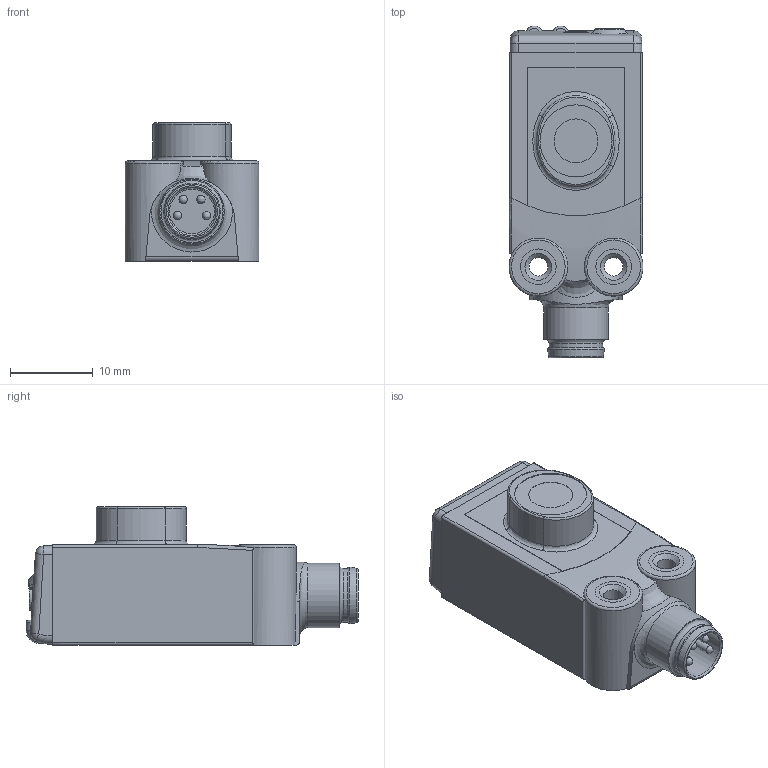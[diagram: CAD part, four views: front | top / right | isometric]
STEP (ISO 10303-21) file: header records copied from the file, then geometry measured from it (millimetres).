
FILE_DESCRIPTION((''),'2;1');
FILE_NAME('B:\MITARBEITER\Gembarski\Inventor\TEMP\Konvertierungsformate\Microsonic\IPT\STP\sks.stp','2007-04-10T15:42:14',('gembarski'),(''),'Autodesk Inventor 10','Autodesk Inventor 10','');
FILE_SCHEMA(('AUTOMOTIVE_DESIGN { 1 0 10303 214 1 1 1 1 }'));
Length unit declared in the file: millimetre
Products named in the file (1): sks
Bounding box: 16.18 x 40.1 x 16.7 mm (x, y, z)
Volume: 6501.6 mm3; surface area: 2944.4 mm2
Topology: 1 solids, 1 shells, 152 faces, 358 edges, 222 vertices
Faces by surface type: plane 48, cylinder 44, bspline 33, torus 14, sphere 10, cone 3
Full cylindrical faces by diameter (mm): 1 x2, 2.24 x1, 2.7 x1, 3 x2, 3.1 x1, 3.3 x1, 4.299 x1, 4.3 x1, 5.3 x1, 6.5 x1, 7.8 x1, 8.7 x1
Entity records: 5590 total; most frequent: CARTESIAN_POINT 2390, DIRECTION 656, ORIENTED_EDGE 610, EDGE_CURVE 305, AXIS2_PLACEMENT_3D 275, EDGE_LOOP 212, VERTEX_POINT 211, FACE_OUTER_BOUND 152
